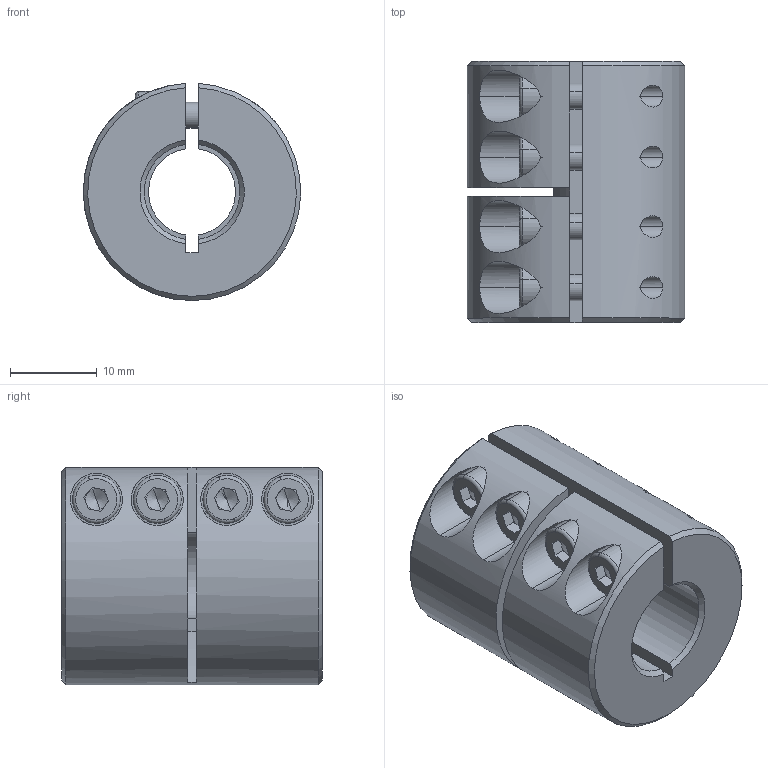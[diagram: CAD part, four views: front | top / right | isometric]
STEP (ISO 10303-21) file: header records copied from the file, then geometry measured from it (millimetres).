
FILE_DESCRIPTION (( 'STEP AP214' ), '1' );
FILE_NAME ('LL-B-D25L30-10-11½¨Ä£.STEP', '2022-07-21T03:19:37', ( '' ), ( '' ), 'SwSTEP 2.0', 'SolidWorks 2022', '' );
FILE_SCHEMA (( 'AUTOMOTIVE_DESIGN' ));
Length unit declared in the file: millimetre
Products named in the file (1): LL-B-D25L30-10-11膘耀
Bounding box: 24.99 x 30 x 24.98 mm (x, y, z)
Volume: 11110.5 mm3; surface area: 5895.1 mm2
Topology: 1 solids, 1 shells, 164 faces, 418 edges, 264 vertices
Faces by surface type: plane 83, cylinder 58, cone 15, torus 8
Entity records: 5402 total; most frequent: CARTESIAN_POINT 1363, DIRECTION 862, ORIENTED_EDGE 820, EDGE_CURVE 410, AXIS2_PLACEMENT_3D 331, VERTEX_POINT 264, LINE 200, VECTOR 200
